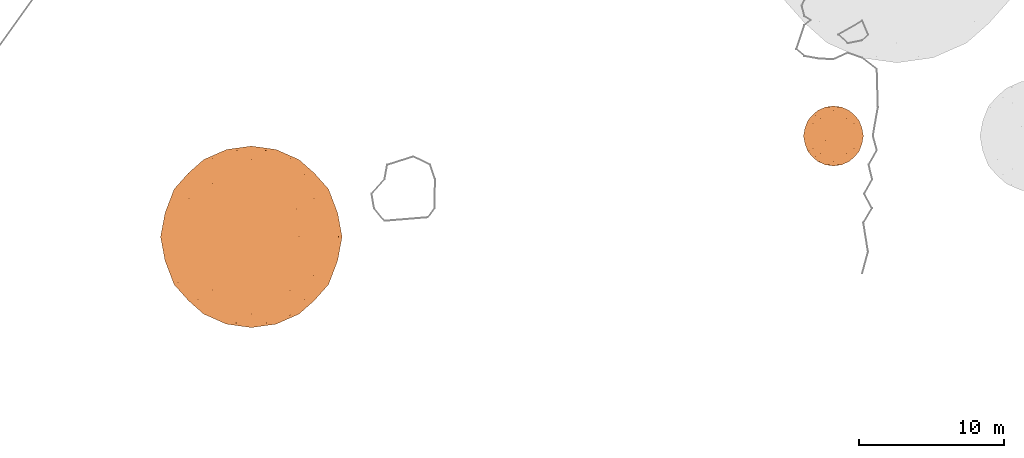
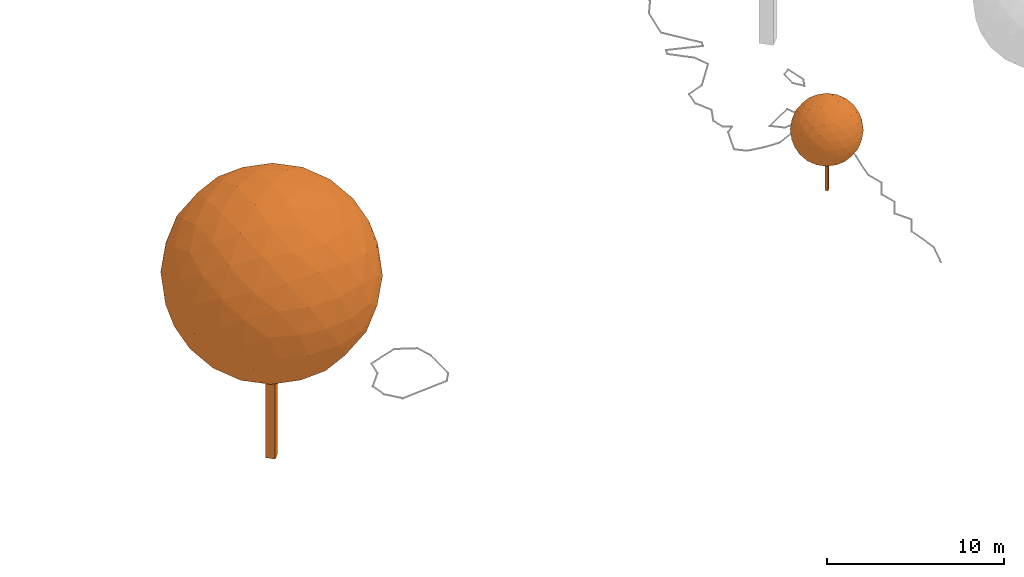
# Not in any storey, part 295 of 477: 2 geographic elements.
"""IFC4 model written with IfcOpenShell, lengths in metres."""

from ifc_helpers import new_model, si_unit, frame, origin_with_axes, place, context, subcontext, project, spatial, polygons, element, save


model = new_model("IFC4")

# Units and contexts
model_context = context("Model", 3, precision=1e-05, world=origin_with_axes())
body_context = subcontext(model_context, "Body", "Model", "MODEL_VIEW")
ifc_project = project(units=[si_unit("AREAUNIT", "SQUARE_METRE"), si_unit("LENGTHUNIT", "METRE")], contexts=[model_context])

# Sites
site_1_placement = place(None, origin_with_axes())
site_1 = spatial("IfcSite", under=ifc_project, at=site_1_placement, Name="Topoexport Site")
site_2_placement = place(site_1_placement, origin_with_axes())
site_2 = spatial("IfcSite", under=site_1, at=site_2_placement, Name="TPX_TREES")

# Geographic elements
geographic_element_1_placement = place(site_2_placement, frame((582.6777320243, 8.170742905, 501.9657743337), z_axis=(0.0, 0.0, 1.0), x_axis=(1.0, 0.0, 0.0)))
element("IfcGeographicElement", 1, at=geographic_element_1_placement, inside=site_2, Name="Tree TR1 CD41", ObjectType="VEGETATION", PredefinedType="USERDEFINED", context=body_context, shape_type="Tessellation", body=[
    polygons([(0.0, -0.1317442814, 0.0), (-0.1317442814, 0.0, 0.0), (0.0, 0.1317442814, 0.0), (0.1317442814, 0.0, 0.0), (0.0, -0.1317442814, 4.1388686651), (-0.1317442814, 0.0, 4.1388686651), (0.0, 0.1317442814, 4.1388686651), (0.1317442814, 0.0, 4.1388686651)], [[[3, 4, 1]], [[1, 2, 3]], [[5, 8, 7]], [[7, 6, 5]], [[5, 6, 1]], [[1, 6, 2]], [[6, 7, 2]], [[2, 7, 3]], [[8, 5, 4]], [[4, 5, 1]], [[7, 8, 3]], [[3, 8, 4]]]),
    polygons([(-1.0879660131, 1.7603659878, 4.1388686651), (1.0879660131, 1.7603659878, 4.1388686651), (-1.0879660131, -1.7603659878, 4.1388686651), (1.0879660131, -1.7603659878, 4.1388686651), (0.0, -1.0879660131, 5.899234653), (0.0, 1.0879660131, 5.899234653), (0.0, -1.0879660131, 2.3785026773), (0.0, 1.0879660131, 2.3785026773), (1.7603659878, 0.0, 3.050902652), (1.7603659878, 0.0, 5.2268346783), (-1.7603659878, 0.0, 3.050902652), (-1.7603659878, 0.0, 5.2268346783), (0.0, 2.0694343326, 4.1388686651), (0.0, -2.0694343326, 4.1388686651), (-0.6394903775, -1.6742075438, 5.1735858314), (0.6394903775, -1.6742075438, 5.1735858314), (-0.6394903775, 1.6742075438, 5.1735858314), (0.6394903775, 1.6742075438, 5.1735858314), (0.0, 0.0, 6.2083029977), (-0.6394903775, -1.6742075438, 3.1041514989), (0.6394903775, -1.6742075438, 3.1041514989), (-0.6394903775, 1.6742075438, 3.1041514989), (0.6394903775, 1.6742075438, 3.1041514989), (0.0, 0.0, 2.0694343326), (1.6742075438, 1.0347171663, 3.4993782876), (1.6742075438, -1.0347171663, 3.4993782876), (1.0347171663, -0.6394903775, 2.4646611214), (1.0347171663, 0.6394903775, 2.4646611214), (1.6742075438, 1.0347171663, 4.7783590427), (1.6742075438, -1.0347171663, 4.7783590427), (1.0347171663, -0.6394903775, 5.8130762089), (1.0347171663, 0.6394903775, 5.8130762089), (2.0694343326, 0.0, 4.1388686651), (-1.6742075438, 1.0347171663, 3.4993782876), (-1.6742075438, -1.0347171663, 3.4993782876), (-1.0347171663, -0.6394903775, 2.4646611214), (-1.0347171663, 0.6394903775, 2.4646611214), (-1.6742075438, 1.0347171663, 4.7783590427), (-1.6742075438, -1.0347171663, 4.7783590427), (-1.0347171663, -0.6394903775, 5.8130762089), (-1.0347171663, 0.6394903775, 5.8130762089), (-2.0694343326, 0.0, 4.1388686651), (-0.5655071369, 1.9906682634, 4.1388686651), (0.5655071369, 1.9906682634, 4.1388686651), (-0.5655071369, -1.9906682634, 4.1388686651), (0.5655071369, -1.9906682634, 4.1388686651), (-0.897903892, -1.785235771, 4.6766979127), (-0.3323967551, -1.4357331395, 5.591707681), (-0.3361999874, -1.968149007, 4.6828516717), (0.897903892, -1.785235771, 4.6766979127), (0.3323967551, -1.4357331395, 5.591707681), (0.3361999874, -1.968149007, 4.6828516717), (0.0, -1.7603659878, 5.2268346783), (-0.897903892, 1.785235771, 4.6766979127), (-0.3323967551, 1.4357331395, 5.591707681), (-0.3361999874, 1.968149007, 4.6828516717), (0.897903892, 1.785235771, 4.6766979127), (0.3323967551, 1.4357331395, 5.591707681), (0.3361999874, 1.968149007, 4.6828516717), (0.0, 1.7603659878, 5.2268346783), (0.0, -0.5655071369, 6.1295369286), (0.0, 0.5655071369, 6.1295369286), (-0.897903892, -1.785235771, 3.6010394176), (-0.3323967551, -1.4357331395, 2.6860296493), (-0.3361999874, -1.968149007, 3.5948856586), (0.897903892, -1.785235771, 3.6010394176), (0.3323967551, -1.4357331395, 2.6860296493), (0.3361999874, -1.968149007, 3.5948856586), (0.0, -1.7603659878, 3.050902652), (-0.897903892, 1.785235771, 3.6010394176), (-0.3323967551, 1.4357331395, 2.6860296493), (-0.3361999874, 1.968149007, 3.5948856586), (0.897903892, 1.785235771, 3.6010394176), (0.3323967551, 1.4357331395, 2.6860296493), (0.3361999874, 1.968149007, 3.5948856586), (0.0, 1.7603659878, 3.050902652), (0.0, -0.5655071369, 2.1482004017), (0.0, 0.5655071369, 2.1482004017), (1.4357331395, 1.4528390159, 3.80647191), (1.785235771, 0.5378292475, 3.2409647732), (1.2163829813, 1.4241660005, 3.2586856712), (1.4357331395, -1.4528390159, 3.80647191), (1.785235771, -0.5378292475, 3.2409647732), (1.2163829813, -1.4241660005, 3.2586856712), (0.5378292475, -0.897903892, 2.3536328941), (1.4528390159, -0.3323967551, 2.7031355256), (0.8801829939, -1.2163829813, 2.7147026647), (0.5439830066, -0.3361999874, 2.1707196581), (1.4241660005, -0.8801829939, 2.9224856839), (0.5378292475, 0.897903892, 2.3536328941), (1.4528390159, 0.3323967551, 2.7031355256), (0.8801829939, 1.2163829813, 2.7147026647), (0.5439830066, 0.3361999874, 2.1707196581), (1.4241660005, 0.8801829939, 2.9224856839), (1.0879660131, 0.0, 2.3785026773), (1.4357331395, 1.4528390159, 4.4712654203), (1.785235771, 0.5378292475, 5.0367725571), (1.2163829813, 1.4241660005, 5.0190516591), (1.7603659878, 1.0879660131, 4.1388686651), (1.4357331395, -1.4528390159, 4.4712654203), (1.785235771, -0.5378292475, 5.0367725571), (1.2163829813, -1.4241660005, 5.0190516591), (1.7603659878, -1.0879660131, 4.1388686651), (0.5378292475, -0.897903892, 5.9241044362), (1.4528390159, -0.3323967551, 5.5746018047), (0.8801829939, -1.2163829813, 5.5630346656), (0.5439830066, -0.3361999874, 6.1070176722), (1.4241660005, -0.8801829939, 5.3552516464), (0.5378292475, 0.897903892, 5.9241044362), (1.4528390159, 0.3323967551, 5.5746018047), (0.8801829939, 1.2163829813, 5.5630346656), (0.5439830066, 0.3361999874, 6.1070176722), (1.4241660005, 0.8801829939, 5.3552516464), (1.0879660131, 0.0, 5.899234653), (1.9906682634, 0.0, 3.5733615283), (1.9906682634, 0.0, 4.704375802), (1.968149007, 0.5439830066, 3.8026686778), (1.968149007, -0.5439830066, 3.8026686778), (1.968149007, 0.5439830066, 4.4750686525), (1.968149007, -0.5439830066, 4.4750686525), (-1.4357331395, 1.4528390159, 3.80647191), (-1.785235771, 0.5378292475, 3.2409647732), (-1.2163829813, 1.4241660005, 3.2586856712), (-1.4357331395, -1.4528390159, 3.80647191), (-1.785235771, -0.5378292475, 3.2409647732), (-1.2163829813, -1.4241660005, 3.2586856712), (-0.5378292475, -0.897903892, 2.3536328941), (-1.4528390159, -0.3323967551, 2.7031355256), (-0.8801829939, -1.2163829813, 2.7147026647), (-0.5439830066, -0.3361999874, 2.1707196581), (-1.4241660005, -0.8801829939, 2.9224856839), (-0.5378292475, 0.897903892, 2.3536328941), (-1.4528390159, 0.3323967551, 2.7031355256), (-0.8801829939, 1.2163829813, 2.7147026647), (-0.5439830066, 0.3361999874, 2.1707196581), (-1.4241660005, 0.8801829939, 2.9224856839), (-1.0879660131, 0.0, 2.3785026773), (-1.4357331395, 1.4528390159, 4.4712654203), (-1.785235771, 0.5378292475, 5.0367725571), (-1.2163829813, 1.4241660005, 5.0190516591), (-1.7603659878, 1.0879660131, 4.1388686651), (-1.4357331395, -1.4528390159, 4.4712654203), (-1.785235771, -0.5378292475, 5.0367725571), (-1.2163829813, -1.4241660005, 5.0190516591), (-1.7603659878, -1.0879660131, 4.1388686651), (-0.5378292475, -0.897903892, 5.9241044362), (-1.4528390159, -0.3323967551, 5.5746018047), (-0.8801829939, -1.2163829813, 5.5630346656), (-0.5439830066, -0.3361999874, 6.1070176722), (-1.4241660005, -0.8801829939, 5.3552516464), (-0.5378292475, 0.897903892, 5.9241044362), (-1.4528390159, 0.3323967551, 5.5746018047), (-0.8801829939, 1.2163829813, 5.5630346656), (-0.5439830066, 0.3361999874, 6.1070176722), (-1.4241660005, 0.8801829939, 5.3552516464), (-1.0879660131, 0.0, 5.899234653), (-1.9906682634, 0.0, 3.5733615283), (-1.9906682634, 0.0, 4.704375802), (-1.968149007, 0.5439830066, 3.8026686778), (-1.968149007, -0.5439830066, 3.8026686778), (-1.968149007, 0.5439830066, 4.4750686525), (-1.968149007, -0.5439830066, 4.4750686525)], [[[1, 138, 54]], [[138, 38, 140]], [[54, 140, 17]], [[138, 140, 54]], [[38, 139, 155]], [[139, 12, 152]], [[155, 152, 41]], [[139, 152, 155]], [[17, 153, 55]], [[153, 41, 151]], [[55, 151, 6]], [[153, 151, 55]], [[38, 155, 140]], [[155, 41, 153]], [[140, 153, 17]], [[155, 153, 140]], [[1, 54, 43]], [[54, 17, 56]], [[43, 56, 13]], [[54, 56, 43]], [[17, 55, 60]], [[55, 6, 58]], [[60, 58, 18]], [[55, 58, 60]], [[13, 59, 44]], [[59, 18, 57]], [[44, 57, 2]], [[59, 57, 44]], [[17, 60, 56]], [[60, 18, 59]], [[56, 59, 13]], [[60, 59, 56]], [[1, 43, 70]], [[43, 13, 72]], [[70, 72, 22]], [[43, 72, 70]], [[13, 44, 75]], [[44, 2, 73]], [[75, 73, 23]], [[44, 73, 75]], [[22, 76, 71]], [[76, 23, 74]], [[71, 74, 8]], [[76, 74, 71]], [[13, 75, 72]], [[75, 23, 76]], [[72, 76, 22]], [[75, 76, 72]], [[1, 70, 121]], [[70, 22, 123]], [[121, 123, 34]], [[70, 123, 121]], [[22, 71, 134]], [[71, 8, 132]], [[134, 132, 37]], [[71, 132, 134]], [[34, 136, 122]], [[136, 37, 133]], [[122, 133, 11]], [[136, 133, 122]], [[22, 134, 123]], [[134, 37, 136]], [[123, 136, 34]], [[134, 136, 123]], [[1, 121, 138]], [[121, 34, 141]], [[138, 141, 38]], [[121, 141, 138]], [[34, 122, 159]], [[122, 11, 157]], [[159, 157, 42]], [[122, 157, 159]], [[38, 161, 139]], [[161, 42, 158]], [[139, 158, 12]], [[161, 158, 139]], [[34, 159, 141]], [[159, 42, 161]], [[141, 161, 38]], [[159, 161, 141]], [[2, 57, 96]], [[57, 18, 98]], [[96, 98, 29]], [[57, 98, 96]], [[18, 58, 111]], [[58, 6, 109]], [[111, 109, 32]], [[58, 109, 111]], [[29, 113, 97]], [[113, 32, 110]], [[97, 110, 10]], [[113, 110, 97]], [[18, 111, 98]], [[111, 32, 113]], [[98, 113, 29]], [[111, 113, 98]], [[6, 151, 62]], [[151, 41, 154]], [[62, 154, 19]], [[151, 154, 62]], [[41, 152, 156]], [[152, 12, 147]], [[156, 147, 40]], [[152, 147, 156]], [[19, 149, 61]], [[149, 40, 146]], [[61, 146, 5]], [[149, 146, 61]], [[41, 156, 154]], [[156, 40, 149]], [[154, 149, 19]], [[156, 149, 154]], [[12, 158, 143]], [[158, 42, 162]], [[143, 162, 39]], [[158, 162, 143]], [[42, 157, 160]], [[157, 11, 125]], [[160, 125, 35]], [[157, 125, 160]], [[39, 145, 142]], [[145, 35, 124]], [[142, 124, 3]], [[145, 124, 142]], [[42, 160, 162]], [[160, 35, 145]], [[162, 145, 39]], [[160, 145, 162]], [[11, 133, 128]], [[133, 37, 137]], [[128, 137, 36]], [[133, 137, 128]], [[37, 132, 135]], [[132, 8, 78]], [[135, 78, 24]], [[132, 78, 135]], [[36, 130, 127]], [[130, 24, 77]], [[127, 77, 7]], [[130, 77, 127]], [[37, 135, 137]], [[135, 24, 130]], [[137, 130, 36]], [[135, 130, 137]], [[8, 74, 90]], [[74, 23, 92]], [[90, 92, 28]], [[74, 92, 90]], [[23, 73, 81]], [[73, 2, 79]], [[81, 79, 25]], [[73, 79, 81]], [[28, 94, 91]], [[94, 25, 80]], [[91, 80, 9]], [[94, 80, 91]], [[23, 81, 92]], [[81, 25, 94]], [[92, 94, 28]], [[81, 94, 92]], [[4, 100, 50]], [[100, 30, 102]], [[50, 102, 16]], [[100, 102, 50]], [[30, 101, 108]], [[101, 10, 105]], [[108, 105, 31]], [[101, 105, 108]], [[16, 106, 51]], [[106, 31, 104]], [[51, 104, 5]], [[106, 104, 51]], [[30, 108, 102]], [[108, 31, 106]], [[102, 106, 16]], [[108, 106, 102]], [[4, 50, 46]], [[50, 16, 52]], [[46, 52, 14]], [[50, 52, 46]], [[16, 51, 53]], [[51, 5, 48]], [[53, 48, 15]], [[51, 48, 53]], [[14, 49, 45]], [[49, 15, 47]], [[45, 47, 3]], [[49, 47, 45]], [[16, 53, 52]], [[53, 15, 49]], [[52, 49, 14]], [[53, 49, 52]], [[4, 46, 66]], [[46, 14, 68]], [[66, 68, 21]], [[46, 68, 66]], [[14, 45, 65]], [[45, 3, 63]], [[65, 63, 20]], [[45, 63, 65]], [[21, 69, 67]], [[69, 20, 64]], [[67, 64, 7]], [[69, 64, 67]], [[14, 65, 68]], [[65, 20, 69]], [[68, 69, 21]], [[65, 69, 68]], [[4, 66, 82]], [[66, 21, 84]], [[82, 84, 26]], [[66, 84, 82]], [[21, 67, 87]], [[67, 7, 85]], [[87, 85, 27]], [[67, 85, 87]], [[26, 89, 83]], [[89, 27, 86]], [[83, 86, 9]], [[89, 86, 83]], [[21, 87, 84]], [[87, 27, 89]], [[84, 89, 26]], [[87, 89, 84]], [[4, 82, 100]], [[82, 26, 103]], [[100, 103, 30]], [[82, 103, 100]], [[26, 83, 118]], [[83, 9, 115]], [[118, 115, 33]], [[83, 115, 118]], [[30, 120, 101]], [[120, 33, 116]], [[101, 116, 10]], [[120, 116, 101]], [[26, 118, 103]], [[118, 33, 120]], [[103, 120, 30]], [[118, 120, 103]], [[5, 104, 61]], [[104, 31, 107]], [[61, 107, 19]], [[104, 107, 61]], [[31, 105, 114]], [[105, 10, 110]], [[114, 110, 32]], [[105, 110, 114]], [[19, 112, 62]], [[112, 32, 109]], [[62, 109, 6]], [[112, 109, 62]], [[31, 114, 107]], [[114, 32, 112]], [[107, 112, 19]], [[114, 112, 107]], [[3, 47, 142]], [[47, 15, 144]], [[142, 144, 39]], [[47, 144, 142]], [[15, 48, 148]], [[48, 5, 146]], [[148, 146, 40]], [[48, 146, 148]], [[39, 150, 143]], [[150, 40, 147]], [[143, 147, 12]], [[150, 147, 143]], [[15, 148, 144]], [[148, 40, 150]], [[144, 150, 39]], [[148, 150, 144]], [[7, 64, 127]], [[64, 20, 129]], [[127, 129, 36]], [[64, 129, 127]], [[20, 63, 126]], [[63, 3, 124]], [[126, 124, 35]], [[63, 124, 126]], [[36, 131, 128]], [[131, 35, 125]], [[128, 125, 11]], [[131, 125, 128]], [[20, 126, 129]], [[126, 35, 131]], [[129, 131, 36]], [[126, 131, 129]], [[9, 86, 91]], [[86, 27, 95]], [[91, 95, 28]], [[86, 95, 91]], [[27, 85, 88]], [[85, 7, 77]], [[88, 77, 24]], [[85, 77, 88]], [[28, 93, 90]], [[93, 24, 78]], [[90, 78, 8]], [[93, 78, 90]], [[27, 88, 95]], [[88, 24, 93]], [[95, 93, 28]], [[88, 93, 95]], [[10, 116, 97]], [[116, 33, 119]], [[97, 119, 29]], [[116, 119, 97]], [[33, 115, 117]], [[115, 9, 80]], [[117, 80, 25]], [[115, 80, 117]], [[29, 99, 96]], [[99, 25, 79]], [[96, 79, 2]], [[99, 79, 96]], [[33, 117, 119]], [[117, 25, 99]], [[119, 99, 29]], [[117, 99, 119]]]),
])
geographic_element_2_placement = place(site_2_placement, frame((542.4797320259, 1.2057431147, 501.9471353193), z_axis=(0.0, 0.0, 1.0), x_axis=(1.0, 0.0, 0.0)))
element("IfcGeographicElement", 2, at=geographic_element_2_placement, inside=site_2, Name="Tree TR3 CD125", ObjectType="VEGETATION", PredefinedType="USERDEFINED", context=body_context, shape_type="Tessellation", body=[
    polygons([(0.0, -0.3989901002, 0.0), (-0.3989901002, 0.0, 0.0), (0.0, 0.3989901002, 0.0), (0.3989901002, 0.0, 0.0), (0.0, -0.3989901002, 12.5346436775), (-0.3989901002, 0.0, 12.5346436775), (0.0, 0.3989901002, 12.5346436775), (0.3989901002, 0.0, 12.5346436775)], [[[3, 4, 1]], [[1, 2, 3]], [[5, 8, 7]], [[7, 6, 5]], [[5, 6, 1]], [[1, 6, 2]], [[6, 7, 2]], [[2, 7, 3]], [[8, 5, 4]], [[4, 5, 1]], [[7, 8, 3]], [[3, 8, 4]]]),
    polygons([(-3.2949260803, 5.3313023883, 12.5346436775), (3.2949260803, 5.3313023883, 12.5346436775), (-3.2949260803, -5.3313023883, 12.5346436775), (3.2949260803, -5.3313023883, 12.5346436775), (0.0, -3.2949260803, 17.8659460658), (0.0, 3.2949260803, 17.8659460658), (0.0, -3.2949260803, 7.2033412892), (0.0, 3.2949260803, 7.2033412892), (5.3313023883, 0.0, 9.2397175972), (5.3313023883, 0.0, 15.8295697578), (-5.3313023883, 0.0, 9.2397175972), (-5.3313023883, 0.0, 15.8295697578), (0.0, 6.2673218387, 12.5346436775), (0.0, -6.2673218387, 12.5346436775), (-1.9367089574, -5.0703698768, 15.6683045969), (1.9367089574, -5.0703698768, 15.6683045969), (-1.9367089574, 5.0703698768, 15.6683045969), (1.9367089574, 5.0703698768, 15.6683045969), (0.0, 0.0, 18.8019655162), (-1.9367089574, -5.0703698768, 9.4009827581), (1.9367089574, -5.0703698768, 9.4009827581), (-1.9367089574, 5.0703698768, 9.4009827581), (1.9367089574, 5.0703698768, 9.4009827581), (0.0, 0.0, 6.2673218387), (5.0703698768, 3.1336609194, 10.5979347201), (5.0703698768, -3.1336609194, 10.5979347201), (3.1336609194, -1.9367089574, 7.4642738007), (3.1336609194, 1.9367089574, 7.4642738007), (5.0703698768, 3.1336609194, 14.4713526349), (5.0703698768, -3.1336609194, 14.4713526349), (3.1336609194, -1.9367089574, 17.6050135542), (3.1336609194, 1.9367089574, 17.6050135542), (6.2673218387, 0.0, 12.5346436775), (-5.0703698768, 3.1336609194, 10.5979347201), (-5.0703698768, -3.1336609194, 10.5979347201), (-3.1336609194, -1.9367089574, 7.4642738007), (-3.1336609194, 1.9367089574, 7.4642738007), (-5.0703698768, 3.1336609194, 14.4713526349), (-5.0703698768, -3.1336609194, 14.4713526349), (-3.1336609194, -1.9367089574, 17.6050135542), (-3.1336609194, 1.9367089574, 17.6050135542), (-6.2673218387, 0.0, 12.5346436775), (-1.7126492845, 6.0287772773, 12.5346436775), (1.7126492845, 6.0287772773, 12.5346436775), (-1.7126492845, -6.0287772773, 12.5346436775), (1.7126492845, -6.0287772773, 12.5346436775), (-2.7193192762, -5.4066210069, 14.1634699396), (-1.0066699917, -4.3481455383, 16.9345946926), (-1.018188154, -5.9605772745, 14.1821067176), (2.7193192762, -5.4066210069, 14.1634699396), (1.0066699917, -4.3481455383, 16.9345946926), (1.018188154, -5.9605772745, 14.1821067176), (0.0, -5.3313023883, 15.8295697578), (-2.7193192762, 5.4066210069, 14.1634699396), (-1.0066699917, 4.3481455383, 16.9345946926), (-1.018188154, 5.9605772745, 14.1821067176), (2.7193192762, 5.4066210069, 14.1634699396), (1.0066699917, 4.3481455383, 16.9345946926), (1.018188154, 5.9605772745, 14.1821067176), (0.0, 5.3313023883, 15.8295697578), (0.0, -1.7126492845, 18.5634209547), (0.0, 1.7126492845, 18.5634209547), (-2.7193192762, -5.4066210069, 10.9058174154), (-1.0066699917, -4.3481455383, 8.1346926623), (-1.018188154, -5.9605772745, 10.8871806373), (2.7193192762, -5.4066210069, 10.9058174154), (1.0066699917, -4.3481455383, 8.1346926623), (1.018188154, -5.9605772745, 10.8871806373), (0.0, -5.3313023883, 9.2397175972), (-2.7193192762, 5.4066210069, 10.9058174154), (-1.0066699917, 4.3481455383, 8.1346926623), (-1.018188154, 5.9605772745, 10.8871806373), (2.7193192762, 5.4066210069, 10.9058174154), (1.0066699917, 4.3481455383, 8.1346926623), (1.018188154, 5.9605772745, 10.8871806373), (0.0, 5.3313023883, 9.2397175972), (0.0, -1.7126492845, 6.5058664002), (0.0, 1.7126492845, 6.5058664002), (4.3481455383, 4.3999510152, 11.5279736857), (5.4066210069, 1.6288262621, 9.8153244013), (3.6838393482, 4.3131142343, 9.8689924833), (4.3481455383, -4.3999510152, 11.5279736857), (5.4066210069, -1.6288262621, 9.8153244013), (3.6838393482, -4.3131142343, 9.8689924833), (1.6288262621, -2.7193192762, 7.1280226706), (4.3999510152, -1.0066699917, 8.1864981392), (2.6656511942, -3.6838393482, 8.2215294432), (1.6474630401, -1.018188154, 6.574066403), (4.3131142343, -2.6656511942, 8.8508043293), (1.6288262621, 2.7193192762, 7.1280226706), (4.3999510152, 1.0066699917, 8.1864981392), (2.6656511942, 3.6838393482, 8.2215294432), (1.6474630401, 1.018188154, 6.574066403), (4.3131142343, 2.6656511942, 8.8508043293), (3.2949260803, 0.0, 7.2033412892), (4.3481455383, 4.3999510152, 13.5413136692), (5.4066210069, 1.6288262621, 15.2539629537), (3.6838393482, 4.3131142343, 15.2002948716), (5.3313023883, 3.2949260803, 12.5346436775), (4.3481455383, -4.3999510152, 13.5413136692), (5.4066210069, -1.6288262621, 15.2539629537), (3.6838393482, -4.3131142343, 15.2002948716), (5.3313023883, -3.2949260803, 12.5346436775), (1.6288262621, -2.7193192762, 17.9412646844), (4.3999510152, -1.0066699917, 16.8827892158), (2.6656511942, -3.6838393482, 16.8477579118), (1.6474630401, -1.018188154, 18.4952209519), (4.3131142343, -2.6656511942, 16.2184830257), (1.6288262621, 2.7193192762, 17.9412646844), (4.3999510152, 1.0066699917, 16.8827892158), (2.6656511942, 3.6838393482, 16.8477579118), (1.6474630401, 1.018188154, 18.4952209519), (4.3131142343, 2.6656511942, 16.2184830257), (3.2949260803, 0.0, 17.8659460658), (6.0287772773, 0.0, 10.821994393), (6.0287772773, 0.0, 14.2472929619), (5.9605772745, 1.6474630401, 11.5164555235), (5.9605772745, -1.6474630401, 11.5164555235), (5.9605772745, 1.6474630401, 13.5528318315), (5.9605772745, -1.6474630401, 13.5528318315), (-4.3481455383, 4.3999510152, 11.5279736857), (-5.4066210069, 1.6288262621, 9.8153244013), (-3.6838393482, 4.3131142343, 9.8689924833), (-4.3481455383, -4.3999510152, 11.5279736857), (-5.4066210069, -1.6288262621, 9.8153244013), (-3.6838393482, -4.3131142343, 9.8689924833), (-1.6288262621, -2.7193192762, 7.1280226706), (-4.3999510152, -1.0066699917, 8.1864981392), (-2.6656511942, -3.6838393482, 8.2215294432), (-1.6474630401, -1.018188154, 6.574066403), (-4.3131142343, -2.6656511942, 8.8508043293), (-1.6288262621, 2.7193192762, 7.1280226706), (-4.3999510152, 1.0066699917, 8.1864981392), (-2.6656511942, 3.6838393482, 8.2215294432), (-1.6474630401, 1.018188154, 6.574066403), (-4.3131142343, 2.6656511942, 8.8508043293), (-3.2949260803, 0.0, 7.2033412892), (-4.3481455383, 4.3999510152, 13.5413136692), (-5.4066210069, 1.6288262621, 15.2539629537), (-3.6838393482, 4.3131142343, 15.2002948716), (-5.3313023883, 3.2949260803, 12.5346436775), (-4.3481455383, -4.3999510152, 13.5413136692), (-5.4066210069, -1.6288262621, 15.2539629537), (-3.6838393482, -4.3131142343, 15.2002948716), (-5.3313023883, -3.2949260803, 12.5346436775), (-1.6288262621, -2.7193192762, 17.9412646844), (-4.3999510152, -1.0066699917, 16.8827892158), (-2.6656511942, -3.6838393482, 16.8477579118), (-1.6474630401, -1.018188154, 18.4952209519), (-4.3131142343, -2.6656511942, 16.2184830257), (-1.6288262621, 2.7193192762, 17.9412646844), (-4.3999510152, 1.0066699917, 16.8827892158), (-2.6656511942, 3.6838393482, 16.8477579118), (-1.6474630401, 1.018188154, 18.4952209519), (-4.3131142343, 2.6656511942, 16.2184830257), (-3.2949260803, 0.0, 17.8659460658), (-6.0287772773, 0.0, 10.821994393), (-6.0287772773, 0.0, 14.2472929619), (-5.9605772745, 1.6474630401, 11.5164555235), (-5.9605772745, -1.6474630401, 11.5164555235), (-5.9605772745, 1.6474630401, 13.5528318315), (-5.9605772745, -1.6474630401, 13.5528318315)], [[[1, 138, 54]], [[138, 38, 140]], [[54, 140, 17]], [[138, 140, 54]], [[38, 139, 155]], [[139, 12, 152]], [[155, 152, 41]], [[139, 152, 155]], [[17, 153, 55]], [[153, 41, 151]], [[55, 151, 6]], [[153, 151, 55]], [[38, 155, 140]], [[155, 41, 153]], [[140, 153, 17]], [[155, 153, 140]], [[1, 54, 43]], [[54, 17, 56]], [[43, 56, 13]], [[54, 56, 43]], [[17, 55, 60]], [[55, 6, 58]], [[60, 58, 18]], [[55, 58, 60]], [[13, 59, 44]], [[59, 18, 57]], [[44, 57, 2]], [[59, 57, 44]], [[17, 60, 56]], [[60, 18, 59]], [[56, 59, 13]], [[60, 59, 56]], [[1, 43, 70]], [[43, 13, 72]], [[70, 72, 22]], [[43, 72, 70]], [[13, 44, 75]], [[44, 2, 73]], [[75, 73, 23]], [[44, 73, 75]], [[22, 76, 71]], [[76, 23, 74]], [[71, 74, 8]], [[76, 74, 71]], [[13, 75, 72]], [[75, 23, 76]], [[72, 76, 22]], [[75, 76, 72]], [[1, 70, 121]], [[70, 22, 123]], [[121, 123, 34]], [[70, 123, 121]], [[22, 71, 134]], [[71, 8, 132]], [[134, 132, 37]], [[71, 132, 134]], [[34, 136, 122]], [[136, 37, 133]], [[122, 133, 11]], [[136, 133, 122]], [[22, 134, 123]], [[134, 37, 136]], [[123, 136, 34]], [[134, 136, 123]], [[1, 121, 138]], [[121, 34, 141]], [[138, 141, 38]], [[121, 141, 138]], [[34, 122, 159]], [[122, 11, 157]], [[159, 157, 42]], [[122, 157, 159]], [[38, 161, 139]], [[161, 42, 158]], [[139, 158, 12]], [[161, 158, 139]], [[34, 159, 141]], [[159, 42, 161]], [[141, 161, 38]], [[159, 161, 141]], [[2, 57, 96]], [[57, 18, 98]], [[96, 98, 29]], [[57, 98, 96]], [[18, 58, 111]], [[58, 6, 109]], [[111, 109, 32]], [[58, 109, 111]], [[29, 113, 97]], [[113, 32, 110]], [[97, 110, 10]], [[113, 110, 97]], [[18, 111, 98]], [[111, 32, 113]], [[98, 113, 29]], [[111, 113, 98]], [[6, 151, 62]], [[151, 41, 154]], [[62, 154, 19]], [[151, 154, 62]], [[41, 152, 156]], [[152, 12, 147]], [[156, 147, 40]], [[152, 147, 156]], [[19, 149, 61]], [[149, 40, 146]], [[61, 146, 5]], [[149, 146, 61]], [[41, 156, 154]], [[156, 40, 149]], [[154, 149, 19]], [[156, 149, 154]], [[12, 158, 143]], [[158, 42, 162]], [[143, 162, 39]], [[158, 162, 143]], [[42, 157, 160]], [[157, 11, 125]], [[160, 125, 35]], [[157, 125, 160]], [[39, 145, 142]], [[145, 35, 124]], [[142, 124, 3]], [[145, 124, 142]], [[42, 160, 162]], [[160, 35, 145]], [[162, 145, 39]], [[160, 145, 162]], [[11, 133, 128]], [[133, 37, 137]], [[128, 137, 36]], [[133, 137, 128]], [[37, 132, 135]], [[132, 8, 78]], [[135, 78, 24]], [[132, 78, 135]], [[36, 130, 127]], [[130, 24, 77]], [[127, 77, 7]], [[130, 77, 127]], [[37, 135, 137]], [[135, 24, 130]], [[137, 130, 36]], [[135, 130, 137]], [[8, 74, 90]], [[74, 23, 92]], [[90, 92, 28]], [[74, 92, 90]], [[23, 73, 81]], [[73, 2, 79]], [[81, 79, 25]], [[73, 79, 81]], [[28, 94, 91]], [[94, 25, 80]], [[91, 80, 9]], [[94, 80, 91]], [[23, 81, 92]], [[81, 25, 94]], [[92, 94, 28]], [[81, 94, 92]], [[4, 100, 50]], [[100, 30, 102]], [[50, 102, 16]], [[100, 102, 50]], [[30, 101, 108]], [[101, 10, 105]], [[108, 105, 31]], [[101, 105, 108]], [[16, 106, 51]], [[106, 31, 104]], [[51, 104, 5]], [[106, 104, 51]], [[30, 108, 102]], [[108, 31, 106]], [[102, 106, 16]], [[108, 106, 102]], [[4, 50, 46]], [[50, 16, 52]], [[46, 52, 14]], [[50, 52, 46]], [[16, 51, 53]], [[51, 5, 48]], [[53, 48, 15]], [[51, 48, 53]], [[14, 49, 45]], [[49, 15, 47]], [[45, 47, 3]], [[49, 47, 45]], [[16, 53, 52]], [[53, 15, 49]], [[52, 49, 14]], [[53, 49, 52]], [[4, 46, 66]], [[46, 14, 68]], [[66, 68, 21]], [[46, 68, 66]], [[14, 45, 65]], [[45, 3, 63]], [[65, 63, 20]], [[45, 63, 65]], [[21, 69, 67]], [[69, 20, 64]], [[67, 64, 7]], [[69, 64, 67]], [[14, 65, 68]], [[65, 20, 69]], [[68, 69, 21]], [[65, 69, 68]], [[4, 66, 82]], [[66, 21, 84]], [[82, 84, 26]], [[66, 84, 82]], [[21, 67, 87]], [[67, 7, 85]], [[87, 85, 27]], [[67, 85, 87]], [[26, 89, 83]], [[89, 27, 86]], [[83, 86, 9]], [[89, 86, 83]], [[21, 87, 84]], [[87, 27, 89]], [[84, 89, 26]], [[87, 89, 84]], [[4, 82, 100]], [[82, 26, 103]], [[100, 103, 30]], [[82, 103, 100]], [[26, 83, 118]], [[83, 9, 115]], [[118, 115, 33]], [[83, 115, 118]], [[30, 120, 101]], [[120, 33, 116]], [[101, 116, 10]], [[120, 116, 101]], [[26, 118, 103]], [[118, 33, 120]], [[103, 120, 30]], [[118, 120, 103]], [[5, 104, 61]], [[104, 31, 107]], [[61, 107, 19]], [[104, 107, 61]], [[31, 105, 114]], [[105, 10, 110]], [[114, 110, 32]], [[105, 110, 114]], [[19, 112, 62]], [[112, 32, 109]], [[62, 109, 6]], [[112, 109, 62]], [[31, 114, 107]], [[114, 32, 112]], [[107, 112, 19]], [[114, 112, 107]], [[3, 47, 142]], [[47, 15, 144]], [[142, 144, 39]], [[47, 144, 142]], [[15, 48, 148]], [[48, 5, 146]], [[148, 146, 40]], [[48, 146, 148]], [[39, 150, 143]], [[150, 40, 147]], [[143, 147, 12]], [[150, 147, 143]], [[15, 148, 144]], [[148, 40, 150]], [[144, 150, 39]], [[148, 150, 144]], [[7, 64, 127]], [[64, 20, 129]], [[127, 129, 36]], [[64, 129, 127]], [[20, 63, 126]], [[63, 3, 124]], [[126, 124, 35]], [[63, 124, 126]], [[36, 131, 128]], [[131, 35, 125]], [[128, 125, 11]], [[131, 125, 128]], [[20, 126, 129]], [[126, 35, 131]], [[129, 131, 36]], [[126, 131, 129]], [[9, 86, 91]], [[86, 27, 95]], [[91, 95, 28]], [[86, 95, 91]], [[27, 85, 88]], [[85, 7, 77]], [[88, 77, 24]], [[85, 77, 88]], [[28, 93, 90]], [[93, 24, 78]], [[90, 78, 8]], [[93, 78, 90]], [[27, 88, 95]], [[88, 24, 93]], [[95, 93, 28]], [[88, 93, 95]], [[10, 116, 97]], [[116, 33, 119]], [[97, 119, 29]], [[116, 119, 97]], [[33, 115, 117]], [[115, 9, 80]], [[117, 80, 25]], [[115, 80, 117]], [[29, 99, 96]], [[99, 25, 79]], [[96, 79, 2]], [[99, 79, 96]], [[33, 117, 119]], [[117, 25, 99]], [[119, 99, 29]], [[117, 99, 119]]]),
])

save(model, "model.ifc")
